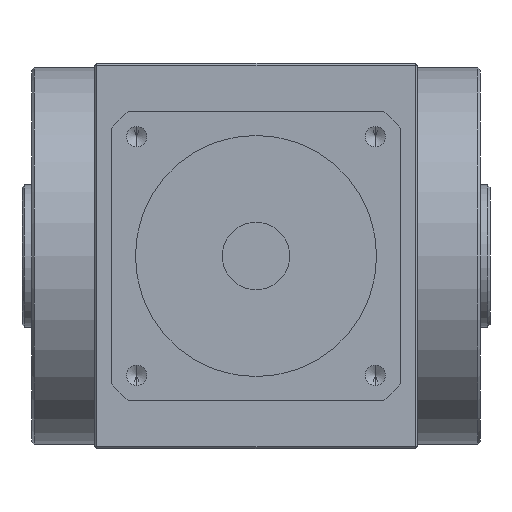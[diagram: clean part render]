
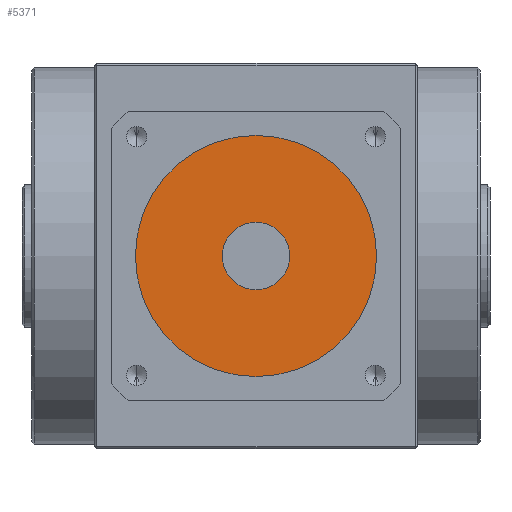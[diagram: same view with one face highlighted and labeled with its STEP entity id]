
A CAD part, front view. The second image highlights one B-rep face of the part: STEP entity #5371.
In plain terms, the highlighted planar face has unit normal (0, -1, 0).
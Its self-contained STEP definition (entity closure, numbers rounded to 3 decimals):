
#5 = PLANE ( 'NONE',  #6814 ) ;
#827 = AXIS2_PLACEMENT_3D ( 'NONE', #4302, #5048, #5037 ) ;
#922 = EDGE_CURVE ( 'NONE', #6719, #1203, #4357, .T. ) ;
#1057 = CARTESIAN_POINT ( 'NONE',  ( 0., -119., 7. ) ) ;
#1062 = DIRECTION ( 'NONE',  ( 0., 1., 0. ) ) ;
#1203 = VERTEX_POINT ( 'NONE', #3616 ) ;
#2222 = EDGE_CURVE ( 'NONE', #6465, #8089, #6278, .T. ) ;
#2372 = CIRCLE ( 'NONE', #4844, 7. ) ;
#3572 = EDGE_CURVE ( 'NONE', #1203, #6719, #5516, .T. ) ;
#3616 = CARTESIAN_POINT ( 'NONE',  ( 0., -119., -25. ) ) ;
#3676 = DIRECTION ( 'NONE',  ( 0., 0., -1. ) ) ;
#3848 = DIRECTION ( 'NONE',  ( 0., 1., 0. ) ) ;
#4163 = CARTESIAN_POINT ( 'NONE',  ( 0., -119., 0. ) ) ;
#4302 = CARTESIAN_POINT ( 'NONE',  ( 0., -119., 0. ) ) ;
#4357 = CIRCLE ( 'NONE', #827, 25. ) ;
#4544 = AXIS2_PLACEMENT_3D ( 'NONE', #4163, #3848, #7943 ) ;
#4844 = AXIS2_PLACEMENT_3D ( 'NONE', #5391, #1062, #6135 ) ;
#5037 = DIRECTION ( 'NONE',  ( 0., 0., -1. ) ) ;
#5048 = DIRECTION ( 'NONE',  ( 0., -1., 0. ) ) ;
#5371 = ADVANCED_FACE ( 'NONE', ( #9174, #7399 ), #5, .T. ) ;
#5391 = CARTESIAN_POINT ( 'NONE',  ( 0., -119., 0. ) ) ;
#5516 = CIRCLE ( 'NONE', #6683, 25. ) ;
#6031 = ORIENTED_EDGE ( 'NONE', *, *, #922, .T. ) ;
#6135 = DIRECTION ( 'NONE',  ( 0., 0., -1. ) ) ;
#6140 = DIRECTION ( 'NONE',  ( 0., 0., -1. ) ) ;
#6278 = CIRCLE ( 'NONE', #4544, 7. ) ;
#6296 = CARTESIAN_POINT ( 'NONE',  ( 0., -119., 25. ) ) ;
#6465 = VERTEX_POINT ( 'NONE', #7542 ) ;
#6569 = CARTESIAN_POINT ( 'NONE',  ( 0., -119., 0. ) ) ;
#6610 = EDGE_CURVE ( 'NONE', #8089, #6465, #2372, .T. ) ;
#6683 = AXIS2_PLACEMENT_3D ( 'NONE', #7952, #9125, #6140 ) ;
#6719 = VERTEX_POINT ( 'NONE', #6296 ) ;
#6814 = AXIS2_PLACEMENT_3D ( 'NONE', #6569, #8031, #3676 ) ;
#7010 = EDGE_LOOP ( 'NONE', ( #7148, #9338 ) ) ;
#7078 = EDGE_LOOP ( 'NONE', ( #7776, #6031 ) ) ;
#7148 = ORIENTED_EDGE ( 'NONE', *, *, #2222, .T. ) ;
#7399 = FACE_OUTER_BOUND ( 'NONE', #7078, .T. ) ;
#7542 = CARTESIAN_POINT ( 'NONE',  ( 0., -119., -7. ) ) ;
#7776 = ORIENTED_EDGE ( 'NONE', *, *, #3572, .T. ) ;
#7943 = DIRECTION ( 'NONE',  ( 0., 0., -1. ) ) ;
#7952 = CARTESIAN_POINT ( 'NONE',  ( 0., -119., 0. ) ) ;
#8031 = DIRECTION ( 'NONE',  ( 0., -1., 0. ) ) ;
#8089 = VERTEX_POINT ( 'NONE', #1057 ) ;
#9125 = DIRECTION ( 'NONE',  ( 0., -1., 0. ) ) ;
#9174 = FACE_BOUND ( 'NONE', #7010, .T. ) ;
#9338 = ORIENTED_EDGE ( 'NONE', *, *, #6610, .T. ) ;
